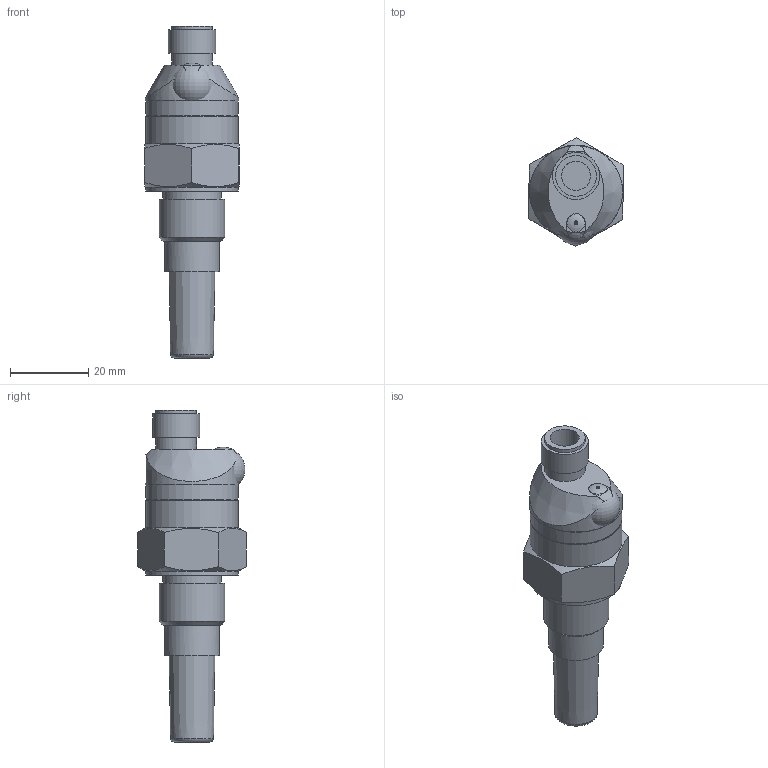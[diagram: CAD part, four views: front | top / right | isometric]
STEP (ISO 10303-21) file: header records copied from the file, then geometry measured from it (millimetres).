
FILE_DESCRIPTION(/* description */ ('Unknown'),/* implementation_level */ '2;1');
FILE_NAME(/* name */ 'CLS-23_N-10-C-_-G3_8_E30',/* time_stamp */ '2019-07-12T14:53:41+02:00',/* author */ ('Unknown'),/* organization */ ('Unknown'),/* preprocessor_version */ 'ST-DEVELOPER v16.7',/* originating_system */ 'DEX',/* authorisation */ $);
FILE_SCHEMA (('AUTOMOTIVE_DESIGN {1 0 10303 214 3 1 1}'));
Length unit declared in the file: millimetre
Products named in the file (1): CLS-23_N-10-C-_-G3_8_E30
Bounding box: 24.12 x 27.71 x 84.61 mm (x, y, z)
Volume: 13148 mm3; surface area: 9944.3 mm2
Topology: 1 solids, 4 shells, 98 faces, 218 edges, 144 vertices
Faces by surface type: plane 40, cone 24, cylinder 24, torus 9, sphere 1
Full cylindrical faces by diameter (mm): 2 x1, 2.2 x1, 5 x1, 6.5 x1, 7.4 x1, 8.585 x1, 9.5 x1, 10 x1, 10.4 x2, 11.95 x1, 12 x2, 14 x1, 14.8 x1, 16.662 x1, 21.4 x1, 21.417 x1, 23.5 x2
Entity records: 3201 total; most frequent: CARTESIAN_POINT 570, DIRECTION 409, ORIENTED_EDGE 304, AXIS2_PLACEMENT_3D 196, FACE_BOUND 165, EDGE_LOOP 163, EDGE_CURVE 152, VERTEX_POINT 123
